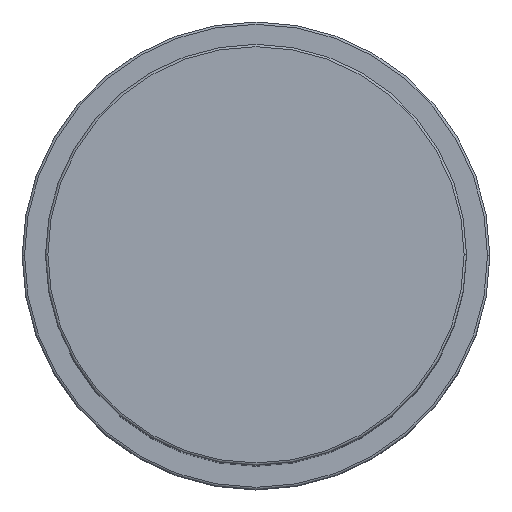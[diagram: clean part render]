
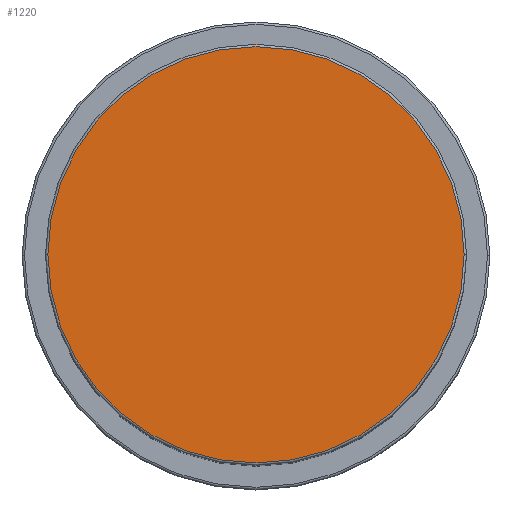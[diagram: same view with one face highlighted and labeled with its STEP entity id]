
A CAD part, top view. The second image highlights one B-rep face of the part: STEP entity #1220.
In plain terms, the highlighted planar face has unit normal (0, 0, 1).
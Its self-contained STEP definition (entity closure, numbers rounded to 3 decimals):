
#409 = EDGE_LOOP ( 'NONE', ( #562, #534 ) ) ;
#534 = ORIENTED_EDGE ( 'NONE', *, *, #1263, .T. ) ;
#559 = PLANE ( 'NONE',  #1063 ) ;
#562 = ORIENTED_EDGE ( 'NONE', *, *, #1648, .T. ) ;
#628 = CIRCLE ( 'NONE', #1143, 44.5 ) ;
#678 = DIRECTION ( 'NONE',  ( 1., 0., 0. ) ) ;
#882 = CARTESIAN_POINT ( 'NONE',  ( 0., 0., 144. ) ) ;
#962 = VERTEX_POINT ( 'NONE', #1409 ) ;
#1063 = AXIS2_PLACEMENT_3D ( 'NONE', #1845, #1515, #1673 ) ;
#1135 = DIRECTION ( 'NONE',  ( 0., 0., 1. ) ) ;
#1143 = AXIS2_PLACEMENT_3D ( 'NONE', #882, #1211, #1665 ) ;
#1152 = VERTEX_POINT ( 'NONE', #1176 ) ;
#1176 = CARTESIAN_POINT ( 'NONE',  ( -44.5, 0., 144. ) ) ;
#1211 = DIRECTION ( 'NONE',  ( 0., 0., 1. ) ) ;
#1220 = ADVANCED_FACE ( 'NONE', ( #1471 ), #559, .T. ) ;
#1263 = EDGE_CURVE ( 'NONE', #1152, #962, #628, .T. ) ;
#1279 = CARTESIAN_POINT ( 'NONE',  ( 0., 0., 144. ) ) ;
#1409 = CARTESIAN_POINT ( 'NONE',  ( 44.5, 0., 144. ) ) ;
#1471 = FACE_OUTER_BOUND ( 'NONE', #409, .T. ) ;
#1515 = DIRECTION ( 'NONE',  ( 0., 0., 1. ) ) ;
#1597 = CIRCLE ( 'NONE', #2057, 44.5 ) ;
#1648 = EDGE_CURVE ( 'NONE', #962, #1152, #1597, .T. ) ;
#1665 = DIRECTION ( 'NONE',  ( 1., 0., 0. ) ) ;
#1673 = DIRECTION ( 'NONE',  ( 1., 0., 0. ) ) ;
#1845 = CARTESIAN_POINT ( 'NONE',  ( 0., 0., 144. ) ) ;
#2057 = AXIS2_PLACEMENT_3D ( 'NONE', #1279, #1135, #678 ) ;
